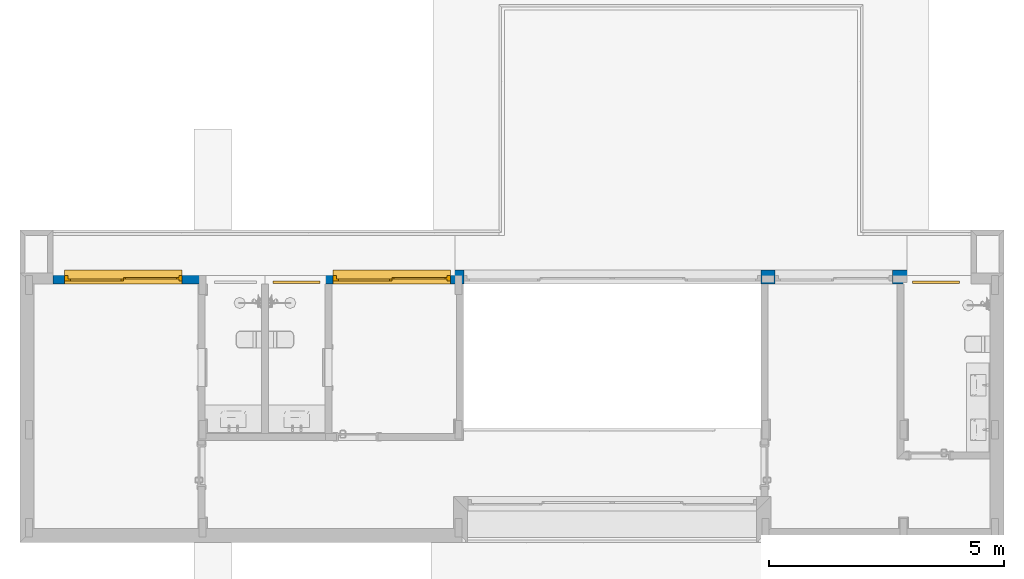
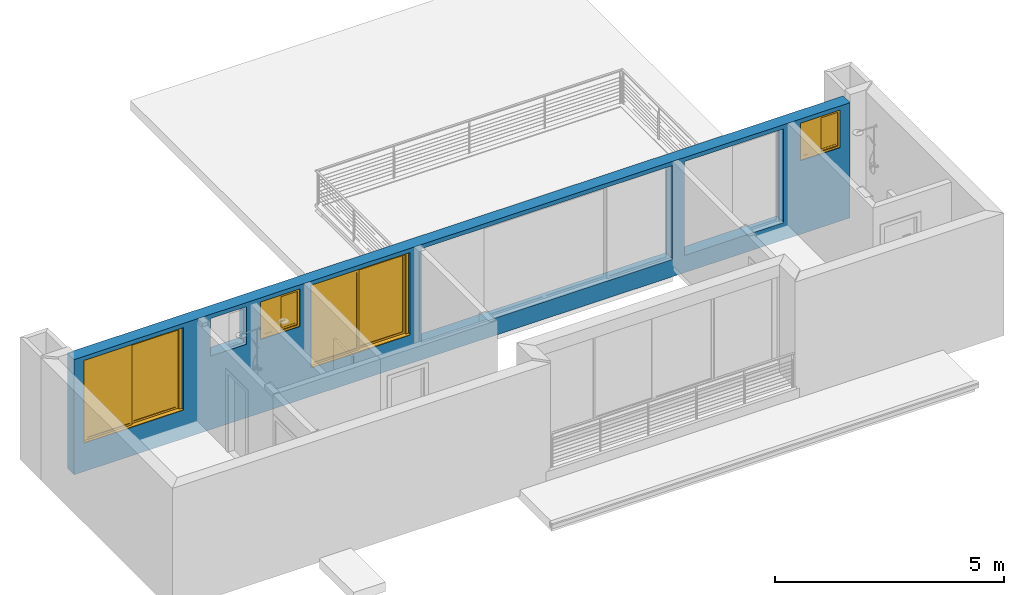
# One storey, part 8 of 24: 2 doors, 2 windows, 1 wall, 7 openings.
"""IFC2X3 building model written with IfcOpenShell, lengths in millimetres."""

from ifc_helpers import new_model, entity, si_unit, converted_unit, money_unit, direction, frame, origin_with_axes, origin_2d_with_axis, place, context, subcontext, project, spatial, polyline, rectangle, outline, extrude, open_shell, faceted_brep, surface_model, source, transform, mapped, material, material_list, layer, layer_set, layer_usage, type_object, element, fill, save


model = new_model("IFC2X3")

# Units and contexts
model_context = context("Model", 3, precision=1e-05, world=origin_with_axes(), true_north=direction((0.0, 1.0)))
body_context = subcontext(model_context, "Body", "Model", "MODEL_VIEW")
ifc_project = project(units=[si_unit("LENGTHUNIT", "METRE", prefix="MILLI"), si_unit("AREAUNIT", "SQUARE_METRE"), si_unit("VOLUMEUNIT", "CUBIC_METRE"), converted_unit("PLANEANGLEUNIT", "DEGREE", entity("IfcPlaneAngleMeasure", 0.0174532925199), si_unit("PLANEANGLEUNIT", "RADIAN"), dimensions=[0, 0, 0, 0, 0, 0, 0]), si_unit("SOLIDANGLEUNIT", "STERADIAN"), money_unit("USD"), converted_unit("TIMEUNIT", "Year", entity("IfcTimeMeasure", 31556926.0), si_unit("TIMEUNIT", "SECOND"), dimensions=[0, 0, 0, 0, 0, 0, 0]), si_unit("MASSUNIT", "GRAM"), si_unit("THERMODYNAMICTEMPERATUREUNIT", "DEGREE_CELSIUS"), si_unit("LUMINOUSINTENSITYUNIT", "LUMEN")], contexts=[model_context])

# Site, building, storey
site_placement = place(None, origin_with_axes())
site = spatial("IfcSite", under=ifc_project, at=site_placement, Name="Grove Residential", CompositionType="ELEMENT")
building_placement = place(site_placement, origin_with_axes())
building = spatial("IfcBuilding", under=site, at=building_placement, Name="Building", CompositionType="ELEMENT")
storey_placement = place(building_placement, frame((0.0, 0.0, 3740.0), z_axis=(0.0, 0.0, 1.0), x_axis=(1.0, 0.0, 0.0)))
storey = spatial("IfcBuildingStorey", under=building, at=storey_placement, Name="First Floor", CompositionType="ELEMENT", Elevation=3740.0)

# Wall, openings, windows, doors
ifc_material_1 = material(Name="External Render")
ifc_layer_1 = layer(ifc_material_1, 20.0, ventilated="UNKNOWN")
ifc_material_2 = material(Name="Cement Board")
ifc_layer_2 = layer(ifc_material_2, 10.0, ventilated="UNKNOWN")
ifc_material_3 = material(Name="Air Space")
ifc_layer_3 = layer(ifc_material_3, 35.0, ventilated="UNKNOWN")
ifc_material_4 = material(Name="Insulation - Plastic Soft")
ifc_layer_4 = layer(ifc_material_4, 50.0, ventilated="UNKNOWN")
ifc_material_5 = material(Name="Concrete Block")
ifc_layer_5 = layer(ifc_material_5, 150.0, ventilated="UNKNOWN")
ifc_material_6 = material(Name="Air Space - Fixing Zone")
ifc_layer_6 = layer(ifc_material_6, 10.0, ventilated="UNKNOWN")
ifc_material_7 = material(Name="Gypsum Plasterboard")
ifc_layer_7 = layer(ifc_material_7, 12.5, ventilated="UNKNOWN")
ifc_layer_8 = layer(ifc_material_7, 12.5, ventilated="UNKNOWN")
ifc_layer_set = layer_set([ifc_layer_1, ifc_layer_2, ifc_layer_3, ifc_layer_4, ifc_layer_5, ifc_layer_6, ifc_layer_7, ifc_layer_8], Name="EWF - 001")
ifc_layer_usage = layer_usage(ifc_layer_set, "AXIS2", "POSITIVE", -115.0)
wall_type = type_object("IfcWallType", Name="EWF - 001 300", PredefinedType="NOTDEFINED")
wall_placement = place(storey_placement, frame((11550.0, 7035.0, -360.0), z_axis=(0.0, 0.0, 1.0), x_axis=(-1.0, 0.0, 0.0)))
wall = element("IfcWallStandardCase", 1, at=wall_placement, inside=storey, type_object=wall_type, material=ifc_layer_usage, Name="SW - 004", context=body_context, shape_type="SweptSolid", body=[
    extrude(outline(polyline([(0.0, -115.0), (19550.0, -115.0), (19550.0, 185.0), (0.0, 185.0), (0.0, -115.0)])), origin_with_axes(), (0.0, 0.0, 1.0), 3070.0),
])
opening_1_placement = place(wall_placement, frame((750.0, 0.0, 1960.0), z_axis=(0.0, 0.0, 1.0), x_axis=(1.0, 0.0, 0.0)))
opening_1 = element("IfcOpeningElement", 2, at=opening_1_placement, cuts=wall, Name="W.03", context=body_context, shape_type="SweptSolid", body=[
    extrude(rectangle(XDim=1000.0, YDim=1000.0, at=origin_2d_with_axis()), frame((0.0, 120.0, 500.0), z_axis=(0.0, 1.0, 0.0), x_axis=(1.0, 0.0, 0.0)), (0.0, 0.0, -1.0), 535.0),
    extrude(rectangle(XDim=1000.0, YDim=1000.0, at=origin_2d_with_axis()), frame((0.0, 120.0, 500.0), z_axis=(0.0, -1.0, 0.0), x_axis=(1.0, 0.0, 0.0)), (0.0, 0.0, -1.0), 365.0),
])
opening_2_placement = place(wall_placement, frame((14360.0, 0.0, 1960.0), z_axis=(0.0, 0.0, 1.0), x_axis=(1.0, 0.0, 0.0)))
opening_2 = element("IfcOpeningElement", 3, at=opening_2_placement, cuts=wall, Name="W.03", context=body_context, shape_type="SweptSolid", body=[
    extrude(rectangle(XDim=1000.0, YDim=1000.0, at=origin_2d_with_axis()), frame((0.0, 120.0, 500.0), z_axis=(0.0, 1.0, 0.0), x_axis=(1.0, 0.0, 0.0)), (0.0, 0.0, -1.0), 535.0),
    extrude(rectangle(XDim=1000.0, YDim=1000.0, at=origin_2d_with_axis()), frame((0.0, 120.0, 500.0), z_axis=(0.0, -1.0, 0.0), x_axis=(1.0, 0.0, 0.0)), (0.0, 0.0, -1.0), 365.0),
])
opening_3_placement = place(wall_placement, frame((15660.0, 0.0, 1960.0), z_axis=(0.0, 0.0, 1.0), x_axis=(1.0, 0.0, 0.0)))
element("IfcOpeningElement", 4, at=opening_3_placement, cuts=wall, Name="W.02", context=body_context, shape_type="SweptSolid", body=[
    extrude(rectangle(XDim=900.0, YDim=1000.0, at=origin_2d_with_axis()), frame((0.0, 120.0, 500.0), z_axis=(0.0, 1.0, 0.0), x_axis=(1.0, 0.0, 0.0)), (0.0, 0.0, -1.0), 535.0),
    extrude(rectangle(XDim=900.0, YDim=1000.0, at=origin_2d_with_axis()), frame((0.0, 120.0, 500.0), z_axis=(0.0, -1.0, 0.0), x_axis=(1.0, 0.0, 0.0)), (0.0, 0.0, -1.0), 365.0),
])
opening_4_placement = place(wall_placement, frame((18050.0, 0.0, 760.0), z_axis=(0.0, 0.0, 1.0), x_axis=(1.0, 0.0, 0.0)))
opening_4 = element("IfcOpeningElement", 5, at=opening_4_placement, cuts=wall, Name="D.06", context=body_context, shape_type="SweptSolid", body=[
    extrude(rectangle(XDim=2500.0, YDim=2200.0, at=origin_2d_with_axis()), frame((0.0, 5.0, 1100.0), z_axis=(0.0, -1.0, 0.0), x_axis=(1.0, 0.0, 0.0)), (0.0, 0.0, -1.0), 480.0),
    extrude(rectangle(XDim=2500.0, YDim=2200.0, at=origin_2d_with_axis()), frame((0.0, 5.0, 1100.0), z_axis=(0.0, 1.0, 0.0), x_axis=(1.0, 0.0, 0.0)), (0.0, 0.0, -1.0), 420.0),
])
opening_5_placement = place(wall_placement, frame((12335.0000067, 0.0, 760.0), z_axis=(0.0, 0.0, 1.0), x_axis=(1.0, 0.0, 0.0)))
opening_5 = element("IfcOpeningElement", 6, at=opening_5_placement, cuts=wall, Name="D.06", context=body_context, shape_type="SweptSolid", body=[
    extrude(rectangle(XDim=2500.0, YDim=2200.0, at=origin_2d_with_axis()), frame((0.0, 5.0, 1100.0), z_axis=(0.0, -1.0, 0.0), x_axis=(1.0, 0.0, 0.0)), (0.0, 0.0, -1.0), 480.0),
    extrude(rectangle(XDim=2500.0, YDim=2200.0, at=origin_2d_with_axis()), frame((0.0, 5.0, 1100.0), z_axis=(0.0, 1.0, 0.0), x_axis=(1.0, 0.0, 0.0)), (0.0, 0.0, -1.0), 420.0),
])
opening_6_placement = place(wall_placement, frame((2925.0, 0.0, 460.0), z_axis=(0.0, 0.0, 1.0), x_axis=(1.0, 0.0, 0.0)))
element("IfcOpeningElement", 7, at=opening_6_placement, cuts=wall, Name="D.06", context=body_context, shape_type="SweptSolid", body=[
    extrude(rectangle(XDim=2500.0, YDim=2500.0, at=origin_2d_with_axis()), frame((0.0, 5.0, 1250.0), z_axis=(0.0, -1.0, 0.0), x_axis=(1.0, 0.0, 0.0)), (0.0, 0.0, -1.0), 480.0),
    extrude(rectangle(XDim=2500.0, YDim=2500.0, at=origin_2d_with_axis()), frame((0.0, 5.0, 1250.0), z_axis=(0.0, 1.0, 0.0), x_axis=(1.0, 0.0, 0.0)), (0.0, 0.0, -1.0), 420.0),
])
opening_7_placement = place(wall_placement, frame((7637.5, 0.0, 460.0), z_axis=(0.0, 0.0, 1.0), x_axis=(1.0, 0.0, 0.0)))
element("IfcOpeningElement", 8, at=opening_7_placement, cuts=wall, Name="D.13", context=body_context, shape_type="SweptSolid", body=[
    extrude(rectangle(XDim=6325.0, YDim=2500.0, at=origin_2d_with_axis()), frame((0.0, 5.0, 1250.0), z_axis=(0.0, -1.0, 0.0), x_axis=(1.0, 0.0, 0.0)), (0.0, 0.0, -1.0), 480.0),
    extrude(rectangle(XDim=6325.0, YDim=2500.0, at=origin_2d_with_axis()), frame((0.0, 5.0, 1250.0), z_axis=(0.0, 1.0, 0.0), x_axis=(1.0, 0.0, 0.0)), (0.0, 0.0, -1.0), 420.0),
])
ifc_material_8 = material(Name="Background")
ifc_material_9 = material(Name="Air Space")
ifc_material_10 = material(Name="Rigid Insulation")
ifc_material_11 = material(Name="Batt Insulation")
ifc_material_list_1 = material_list([ifc_material_8, ifc_material_9, ifc_material_8, ifc_material_8, ifc_material_8, ifc_material_10, ifc_material_8, ifc_material_8, ifc_material_8, ifc_material_8, ifc_material_9, ifc_material_8, ifc_material_11])
window_style = type_object("IfcWindowStyle", Name="Window 21", ConstructionType="NOTDEFINED", OperationType="DOUBLE_PANEL_VERTICAL", ParameterTakesPrecedence=False, Sizeable=False)
shared_shape_1 = source(origin_with_axes(), body_context, "Body", "SurfaceModel", [
    faceted_brep([(-450.0, -50.0, 950.0), (-450.0, 0.0, 950.0), (-500.0, 0.0, 950.0), (-500.0, -50.0, 950.0), (-450.0, -50.0, 50.0), (-450.0, 0.0, 50.0), (-500.0, 0.0, 50.0), (-500.0, -50.0, 50.0)], [[[0, 1, 2, 3]], [[4, 5, 1, 0]], [[1, 5, 6, 2]], [[3, 2, 6, 7]], [[0, 3, 7, 4]], [[7, 6, 5, 4]]]),
    faceted_brep([(450.0, -50.0, 50.0), (450.0, 0.0, 50.0), (500.0, 0.0, 50.0), (500.0, -50.0, 50.0), (450.0, -50.0, 950.0), (450.0, 0.0, 950.0), (500.0, 0.0, 950.0), (500.0, -50.0, 950.0)], [[[0, 1, 2, 3]], [[4, 5, 1, 0]], [[1, 5, 6, 2]], [[3, 2, 6, 7]], [[0, 3, 7, 4]], [[7, 6, 5, 4]]]),
    faceted_brep([(-450.0, -50.0, 50.0), (-450.0, 0.0, 50.0), (-500.0, 0.0, 50.0), (-500.0, -50.0, 50.0), (450.0, -50.0, 50.0), (450.0, 0.0, 50.0), (500.0, 0.0, 50.0), (500.0, 0.0, 0.0), (-500.0, 0.0, 0.0), (-500.0, -50.0, 0.0), (500.0, -50.0, 0.0), (500.0, -50.0, 50.0)], [[[0, 1, 2, 3]], [[4, 5, 1, 0]], [[1, 5, 6, 7, 8, 2]], [[3, 2, 8, 9]], [[0, 3, 9, 10, 11, 4]], [[11, 6, 5, 4]], [[10, 7, 6, 11]], [[9, 8, 7, 10]]]),
    faceted_brep([(450.0, -50.0, 950.0), (450.0, 0.0, 950.0), (500.0, 0.0, 950.0), (500.0, -50.0, 950.0), (-450.0, -50.0, 950.0), (-450.0, 0.0, 950.0), (-500.0, 0.0, 950.0), (-500.0, 0.0, 1000.0), (500.0, 0.0, 1000.0), (500.0, -50.0, 1000.0), (-500.0, -50.0, 1000.0), (-500.0, -50.0, 950.0)], [[[0, 1, 2, 3]], [[4, 5, 1, 0]], [[1, 5, 6, 7, 8, 2]], [[3, 2, 8, 9]], [[0, 3, 9, 10, 11, 4]], [[11, 6, 5, 4]], [[10, 7, 6, 11]], [[9, 8, 7, 10]]]),
    faceted_brep([(25.0, -25.0, 900.0), (25.0, 0.0, 900.0), (-25.0, 0.0, 900.0), (-25.0, -25.0, 900.0), (25.0, -25.0, 100.0), (25.0, 0.0, 100.0), (-25.0, 0.0, 100.0), (-25.0, -25.0, 100.0)], [[[0, 1, 2, 3]], [[4, 5, 1, 0]], [[1, 5, 6, 2]], [[3, 2, 6, 7]], [[0, 3, 7, 4]], [[7, 6, 5, 4]]]),
    faceted_brep([(400.0, -25.0, 100.0), (400.0, 0.0, 100.0), (450.0, 0.0, 100.0), (450.0, -25.0, 100.0), (400.0, -25.0, 900.0), (400.0, 0.0, 900.0), (450.0, 0.0, 900.0), (450.0, -25.0, 900.0)], [[[0, 1, 2, 3]], [[4, 5, 1, 0]], [[1, 5, 6, 2]], [[3, 2, 6, 7]], [[0, 3, 7, 4]], [[7, 6, 5, 4]]]),
    faceted_brep([(450.0, -25.0, 50.0), (450.0, 0.0, 50.0), (450.0, 0.0, 100.0), (450.0, -25.0, 100.0), (-25.0, -25.0, 50.0), (-25.0, 0.0, 50.0), (-25.0, 0.0, 100.0), (25.0, 0.0, 100.0), (400.0, 0.0, 100.0), (400.0, -25.0, 100.0), (25.0, -25.0, 100.0), (-25.0, -25.0, 100.0)], [[[0, 1, 2, 3]], [[4, 5, 1, 0]], [[1, 5, 6, 7, 8, 2]], [[3, 2, 8, 9]], [[0, 3, 9, 10, 11, 4]], [[11, 6, 5, 4]], [[10, 7, 6, 11]], [[9, 8, 7, 10]]]),
    faceted_brep([(-25.0, -25.0, 950.0), (-25.0, 0.0, 950.0), (-25.0, 0.0, 900.0), (-25.0, -25.0, 900.0), (450.0, -25.0, 950.0), (450.0, 0.0, 950.0), (450.0, 0.0, 900.0), (400.0, 0.0, 900.0), (25.0, 0.0, 900.0), (25.0, -25.0, 900.0), (400.0, -25.0, 900.0), (450.0, -25.0, 900.0)], [[[0, 1, 2, 3]], [[4, 5, 1, 0]], [[1, 5, 6, 7, 8, 2]], [[3, 2, 8, 9]], [[0, 3, 9, 10, 11, 4]], [[11, 6, 5, 4]], [[10, 7, 6, 11]], [[9, 8, 7, 10]]]),
    surface_model("IfcShellBasedSurfaceModel", [(25.0, -22.5, 100.0), (400.0, -22.5, 100.0), (400.0, -22.5, 900.0), (25.0, -22.5, 900.0)], [open_shell([[[0, 1, 2, 3]]])]),
    surface_model("IfcShellBasedSurfaceModel", [(25.0, -2.5, 100.0), (25.0, -2.5, 900.0), (400.0, -2.5, 900.0), (400.0, -2.5, 100.0)], [open_shell([[[0, 1, 2, 3]]])]),
    faceted_brep([(-400.0, -50.0, 900.0), (-400.0, -25.0, 900.0), (-450.0, -25.0, 900.0), (-450.0, -50.0, 900.0), (-400.0, -50.0, 100.0), (-400.0, -25.0, 100.0), (-450.0, -25.0, 100.0), (-450.0, -50.0, 100.0)], [[[0, 1, 2, 3]], [[4, 5, 1, 0]], [[1, 5, 6, 2]], [[3, 2, 6, 7]], [[0, 3, 7, 4]], [[7, 6, 5, 4]]]),
    faceted_brep([(-25.0, -50.0, 100.0), (-25.0, -25.0, 100.0), (25.0, -25.0, 100.0), (25.0, -50.0, 100.0), (-25.0, -50.0, 900.0), (-25.0, -25.0, 900.0), (25.0, -25.0, 900.0), (25.0, -50.0, 900.0)], [[[0, 1, 2, 3]], [[4, 5, 1, 0]], [[1, 5, 6, 2]], [[3, 2, 6, 7]], [[0, 3, 7, 4]], [[7, 6, 5, 4]]]),
    faceted_brep([(25.0, -50.0, 50.0), (25.0, -25.0, 50.0), (25.0, -25.0, 100.0), (25.0, -50.0, 100.0), (-450.0, -50.0, 50.0), (-450.0, -25.0, 50.0), (-450.0, -25.0, 100.0), (-400.0, -25.0, 100.0), (-25.0, -25.0, 100.0), (-25.0, -50.0, 100.0), (-400.0, -50.0, 100.0), (-450.0, -50.0, 100.0)], [[[0, 1, 2, 3]], [[4, 5, 1, 0]], [[1, 5, 6, 7, 8, 2]], [[3, 2, 8, 9]], [[0, 3, 9, 10, 11, 4]], [[11, 6, 5, 4]], [[10, 7, 6, 11]], [[9, 8, 7, 10]]]),
    faceted_brep([(-450.0, -50.0, 950.0), (-450.0, -25.0, 950.0), (-450.0, -25.0, 900.0), (-450.0, -50.0, 900.0), (25.0, -50.0, 950.0), (25.0, -25.0, 950.0), (25.0, -25.0, 900.0), (-25.0, -25.0, 900.0), (-400.0, -25.0, 900.0), (-400.0, -50.0, 900.0), (-25.0, -50.0, 900.0), (25.0, -50.0, 900.0)], [[[0, 1, 2, 3]], [[4, 5, 1, 0]], [[1, 5, 6, 7, 8, 2]], [[3, 2, 8, 9]], [[0, 3, 9, 10, 11, 4]], [[11, 6, 5, 4]], [[10, 7, 6, 11]], [[9, 8, 7, 10]]]),
    surface_model("IfcShellBasedSurfaceModel", [(-400.0, -47.5, 100.0), (-25.0, -47.5, 100.0), (-25.0, -47.5, 900.0), (-400.0, -47.5, 900.0)], [open_shell([[[0, 1, 2, 3]]])]),
    surface_model("IfcShellBasedSurfaceModel", [(-400.0, -27.5, 100.0), (-400.0, -27.5, 900.0), (-25.0, -27.5, 900.0), (-25.0, -27.5, 100.0)], [open_shell([[[0, 1, 2, 3]]])]),
])
window_1_placement = place(opening_1_placement, frame((-500.0, 0.0, 0.0), z_axis=(0.0, 0.0, 1.0), x_axis=(1.0, 0.0, 0.0)))
window_1 = element("IfcWindow", 9, at=window_1_placement, inside=storey, type_object=window_style, material=ifc_material_list_1, Name="W.03", OverallHeight=1000.0, OverallWidth=1000.0, context=body_context, shape_type="MappedRepresentation", body=[
    mapped(shared_shape_1, transform((500.0, 170.0, 0.0))),
])
fill(opening_1, window_1)
window_2_placement = place(opening_2_placement, frame((-500.0, 0.0, 0.0), z_axis=(0.0, 0.0, 1.0), x_axis=(1.0, 0.0, 0.0)))
window_2 = element("IfcWindow", 10, at=window_2_placement, inside=storey, type_object=window_style, material=ifc_material_list_1, Name="W.03", OverallHeight=1000.0, OverallWidth=1000.0, context=body_context, shape_type="MappedRepresentation", body=[
    mapped(shared_shape_1, transform((500.0, 170.0, 0.0))),
])
fill(opening_2, window_2)
ifc_material_12 = material(Name="Foreground")
ifc_material_list_2 = material_list([ifc_material_8, ifc_material_9, ifc_material_12, ifc_material_8, ifc_material_8, ifc_material_8, ifc_material_8, ifc_material_10, ifc_material_8, ifc_material_8, ifc_material_8, ifc_material_8, ifc_material_9, ifc_material_8, ifc_material_11, ifc_material_8])
door_style = type_object("IfcDoorStyle", Name="Sliding Door 21", ConstructionType="NOTDEFINED", OperationType="USERDEFINED", ParameterTakesPrecedence=False, Sizeable=False)
shared_shape_2 = source(origin_with_axes(), body_context, "Body", "SurfaceModel", [
    faceted_brep([(-1250.0, -115.0, 0.0), (-1250.0, -235.01, 0.0), (-1250.0, -235.01, 12.0), (-1250.0, -115.0, 12.0), (-1180.0, -115.0, 0.0), (-1180.0, 0.0, 0.0), (-1250.0, 0.0, 0.0), (-1250.0, 65.0, 0.0), (-1250.0, 65.01, 0.0), (1250.0, 65.01, 0.0), (1250.0, 65.0, 0.0), (1250.0, 0.0, 0.0), (1180.0, 0.0, 0.0), (1180.0, -115.0, 0.0), (1250.0, -115.0, 0.0), (1250.0, -235.0, 0.0), (1250.0, -235.0, 12.0), (1250.0, -115.0, 12.0), (1180.0, -115.0, 12.0), (1180.0, 0.0, 12.0), (1250.0, 0.0, 12.0), (1250.0, 65.0, 12.0), (1250.0, 65.01, 12.0), (-1250.0, 65.01, 12.0), (-1250.0, 65.0, 12.0), (-1250.0, 0.0, 12.0), (-1180.0, 0.0, 12.0), (-1180.0, -115.0, 12.0)], [[[0, 1, 2, 3]], [[0, 4, 5, 6, 7, 8, 9, 10, 11, 12, 13, 14, 15, 1]], [[1, 15, 16, 2]], [[3, 2, 16, 17, 18, 19, 20, 21, 22, 23, 24, 25, 26, 27]], [[4, 0, 3, 27]], [[5, 4, 27, 26]], [[6, 5, 26, 25]], [[7, 6, 25, 24]], [[8, 7, 24, 23]], [[9, 8, 23, 22]], [[10, 9, 22, 21]], [[11, 10, 21, 20]], [[12, 11, 20, 19]], [[13, 12, 19, 18]], [[14, 13, 18, 17]], [[15, 14, 17, 16]]]),
    faceted_brep([(-1250.0, 0.0, 0.0), (-1180.0, 0.0, 0.0), (-1180.0, -115.0, 0.0), (-1250.0, -115.0, 0.0), (-1250.0, 0.0, 2130.0), (-1180.0, 0.0, 2130.0), (-1180.0, -115.0, 2130.0), (-1250.0, -115.0, 2130.0)], [[[0, 1, 2, 3]], [[0, 4, 5, 1]], [[1, 5, 6, 2]], [[3, 2, 6, 7]], [[4, 0, 3, 7]], [[5, 4, 7, 6]]]),
    faceted_brep([(1250.0, 0.0, 0.0), (1250.0, 0.0, 2130.0), (1250.0, -115.0, 2130.0), (1250.0, -115.0, 0.0), (1180.0, 0.0, 0.0), (1180.0, 0.0, 2130.0), (1180.0, -115.0, 2130.0), (1180.0, -115.0, 0.0)], [[[0, 1, 2, 3]], [[0, 4, 5, 1]], [[1, 5, 6, 2]], [[3, 2, 6, 7]], [[4, 0, 3, 7]], [[5, 4, 7, 6]]]),
    faceted_brep([(-1250.0, 0.0, 2200.0), (-1250.0, 0.0, 2130.0), (-1250.0, -115.0, 2130.0), (-1250.0, -115.0, 2200.0), (1250.0, 0.0, 2200.0), (1250.0, 0.0, 2130.0), (1180.0, 0.0, 2130.0), (-1180.0, 0.0, 2130.0), (-1180.0, -115.0, 2130.0), (1180.0, -115.0, 2130.0), (1250.0, -115.0, 2130.0), (1250.0, -115.0, 2200.0)], [[[0, 1, 2, 3]], [[0, 4, 5, 6, 7, 1]], [[1, 7, 8, 2]], [[3, 2, 8, 9, 10, 11]], [[4, 0, 3, 11]], [[5, 4, 11, 10]], [[6, 5, 10, 9]], [[7, 6, 9, 8]]]),
    faceted_brep([(0.0, 0.0, 62.0), (50.0, 0.0, 62.0), (50.0, -40.0, 62.0), (0.0, -40.0, 62.0), (0.0, 0.0, 2080.0), (50.0, 0.0, 2080.0), (50.0, -40.0, 2080.0), (0.0, -40.0, 2080.0)], [[[0, 1, 2, 3]], [[0, 4, 5, 1]], [[1, 5, 6, 2]], [[3, 2, 6, 7]], [[4, 0, 3, 7]], [[5, 4, 7, 6]]]),
    faceted_brep([(1180.0, 0.0, 62.0), (1180.0, 0.0, 2080.0), (1180.0, -40.0, 2080.0), (1180.0, -40.0, 62.0), (1130.0, 0.0, 62.0), (1130.0, 0.0, 2080.0), (1130.0, -40.0, 2080.0), (1130.0, -40.0, 62.0)], [[[0, 1, 2, 3]], [[0, 4, 5, 1]], [[1, 5, 6, 2]], [[3, 2, 6, 7]], [[4, 0, 3, 7]], [[5, 4, 7, 6]]]),
    faceted_brep([(0.0, 0.0, 12.0), (1180.0, 0.0, 12.0), (1180.0, -40.0, 12.0), (0.0, -40.0, 12.0), (0.0, 0.0, 62.0), (50.0, 0.0, 62.0), (1130.0, 0.0, 62.0), (1180.0, 0.0, 62.0), (1180.0, -40.0, 62.0), (1130.0, -40.0, 62.0), (50.0, -40.0, 62.0), (0.0, -40.0, 62.0)], [[[0, 1, 2, 3]], [[0, 4, 5, 6, 7, 1]], [[1, 7, 8, 2]], [[3, 2, 8, 9, 10, 11]], [[4, 0, 3, 11]], [[5, 4, 11, 10]], [[6, 5, 10, 9]], [[7, 6, 9, 8]]]),
    faceted_brep([(0.0, 0.0, 2130.0), (0.0, 0.0, 2080.0), (0.0, -40.0, 2080.0), (0.0, -40.0, 2130.0), (1180.0, 0.0, 2130.0), (1180.0, 0.0, 2080.0), (1130.0, 0.0, 2080.0), (50.0, 0.0, 2080.0), (50.0, -40.0, 2080.0), (1130.0, -40.0, 2080.0), (1180.0, -40.0, 2080.0), (1180.0, -40.0, 2130.0)], [[[0, 1, 2, 3]], [[0, 4, 5, 6, 7, 1]], [[1, 7, 8, 2]], [[3, 2, 8, 9, 10, 11]], [[4, 0, 3, 11]], [[5, 4, 11, 10]], [[6, 5, 10, 9]], [[7, 6, 9, 8]]]),
    surface_model("IfcShellBasedSurfaceModel", [(50.0, -14.0, 62.0), (50.0, -14.0, 2080.0), (1130.0, -14.0, 2080.0), (1130.0, -14.0, 62.0)], [open_shell([[[0, 1, 2, 3]]])]),
    surface_model("IfcShellBasedSurfaceModel", [(50.0, -26.0, 62.0), (1130.0, -26.0, 62.0), (1130.0, -26.0, 2080.0), (50.0, -26.0, 2080.0)], [open_shell([[[0, 1, 2, 3]]])]),
    faceted_brep([(0.0, -40.0, 62.0), (0.0, -80.0, 62.0), (-50.0, -80.0, 62.0), (-50.0, -40.0, 62.0), (0.0, -40.0, 2080.0), (0.0, -80.0, 2080.0), (-50.0, -80.0, 2080.0), (-50.0, -40.0, 2080.0)], [[[0, 1, 2, 3]], [[4, 5, 1, 0]], [[1, 5, 6, 2]], [[3, 2, 6, 7]], [[0, 3, 7, 4]], [[7, 6, 5, 4]]]),
    faceted_brep([(-1180.0, -40.0, 62.0), (-1180.0, -80.0, 62.0), (-1180.0, -80.0, 2080.0), (-1180.0, -40.0, 2080.0), (-1130.0, -40.0, 62.0), (-1130.0, -80.0, 62.0), (-1130.0, -80.0, 2080.0), (-1130.0, -40.0, 2080.0)], [[[0, 1, 2, 3]], [[4, 5, 1, 0]], [[1, 5, 6, 2]], [[3, 2, 6, 7]], [[0, 3, 7, 4]], [[7, 6, 5, 4]]]),
    faceted_brep([(0.0, -40.0, 12.0), (0.0, -80.0, 12.0), (-1180.0, -80.0, 12.0), (-1180.0, -40.0, 12.0), (0.0, -40.0, 62.0), (0.0, -80.0, 62.0), (-50.0, -80.0, 62.0), (-1130.0, -80.0, 62.0), (-1180.0, -80.0, 62.0), (-1180.0, -40.0, 62.0), (-1130.0, -40.0, 62.0), (-50.0, -40.0, 62.0)], [[[0, 1, 2, 3]], [[4, 5, 1, 0]], [[1, 5, 6, 7, 8, 2]], [[3, 2, 8, 9]], [[0, 3, 9, 10, 11, 4]], [[11, 6, 5, 4]], [[10, 7, 6, 11]], [[9, 8, 7, 10]]]),
    faceted_brep([(0.0, -40.0, 2130.0), (0.0, -80.0, 2130.0), (0.0, -80.0, 2080.0), (0.0, -40.0, 2080.0), (-1180.0, -40.0, 2130.0), (-1180.0, -80.0, 2130.0), (-1180.0, -80.0, 2080.0), (-1130.0, -80.0, 2080.0), (-50.0, -80.0, 2080.0), (-50.0, -40.0, 2080.0), (-1130.0, -40.0, 2080.0), (-1180.0, -40.0, 2080.0)], [[[0, 1, 2, 3]], [[4, 5, 1, 0]], [[1, 5, 6, 7, 8, 2]], [[3, 2, 8, 9]], [[0, 3, 9, 10, 11, 4]], [[11, 6, 5, 4]], [[10, 7, 6, 11]], [[9, 8, 7, 10]]]),
    surface_model("IfcShellBasedSurfaceModel", [(-50.0, -54.0, 62.0), (-1130.0, -54.0, 62.0), (-1130.0, -54.0, 2080.0), (-50.0, -54.0, 2080.0)], [open_shell([[[0, 1, 2, 3]]])]),
    surface_model("IfcShellBasedSurfaceModel", [(-50.0, -66.0, 62.0), (-50.0, -66.0, 2080.0), (-1130.0, -66.0, 2080.0), (-1130.0, -66.0, 62.0)], [open_shell([[[0, 1, 2, 3]]])]),
])
door_1_placement = place(opening_4_placement, frame((-1250.0, 0.0, 0.0), z_axis=(0.0, 0.0, 1.0), x_axis=(1.0, 0.0, 0.0)))
door_1 = element("IfcDoor", 11, at=door_1_placement, inside=storey, type_object=door_style, material=ifc_material_list_2, Name="D.06", OverallHeight=2200.0, OverallWidth=2500.0, context=body_context, shape_type="MappedRepresentation", body=[
    mapped(shared_shape_2, transform((1250.0, 120.0, 0.0))),
])
fill(opening_4, door_1)
door_2_placement = place(opening_5_placement, frame((-1250.0, 0.0, 0.0), z_axis=(0.0, 0.0, 1.0), x_axis=(1.0, 0.0, 0.0)))
door_2 = element("IfcDoor", 12, at=door_2_placement, inside=storey, type_object=door_style, material=ifc_material_list_2, Name="D.06", OverallHeight=2200.0, OverallWidth=2500.0, context=body_context, shape_type="MappedRepresentation", body=[
    mapped(shared_shape_2, transform((1250.0, 120.0, 0.0))),
])
fill(opening_5, door_2)

save(model, "model.ifc")
